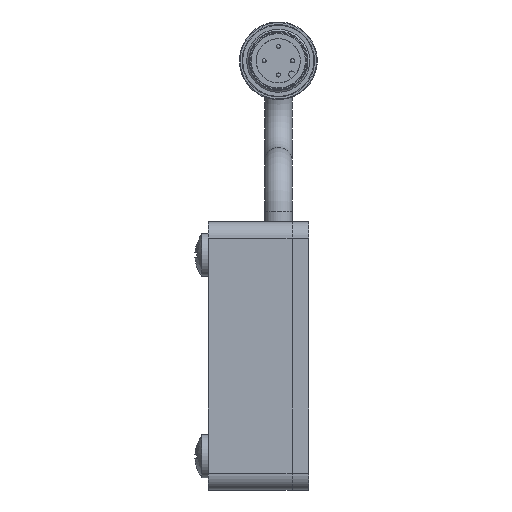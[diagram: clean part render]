
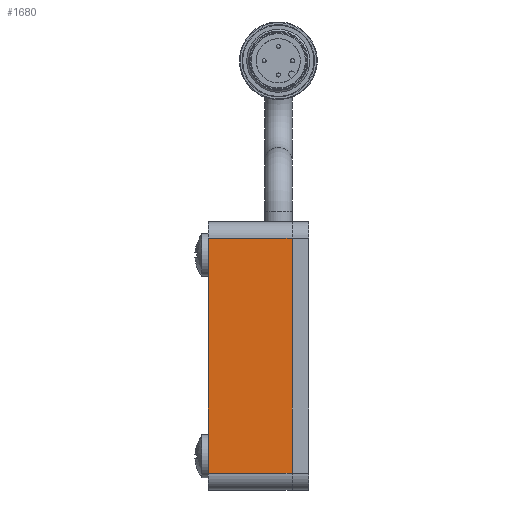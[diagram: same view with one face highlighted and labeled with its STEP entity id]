
A CAD part, left-side view. The second image highlights one B-rep face of the part: STEP entity #1680.
In plain terms, the highlighted planar face has unit normal (-1, 0, 0).
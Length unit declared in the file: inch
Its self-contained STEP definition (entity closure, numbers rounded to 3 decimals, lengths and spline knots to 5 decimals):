
#269 = VERTEX_POINT ( 'NONE', #8108 ) ;
#1356 = DIRECTION ( 'NONE',  ( 0., 0., 1. ) ) ;
#1680 = ADVANCED_FACE ( 'NONE', ( #5026 ), #9696, .F. ) ;
#2033 = DIRECTION ( 'NONE',  ( 0., 0., -1. ) ) ;
#2056 = VERTEX_POINT ( 'NONE', #3302 ) ;
#2324 = LINE ( 'NONE', #9928, #9515 ) ;
#2597 = VERTEX_POINT ( 'NONE', #7595 ) ;
#3302 = CARTESIAN_POINT ( 'NONE',  ( -2.5, -0.3125, 0.875 ) ) ;
#3992 = VECTOR ( 'NONE', #5031, 39.37008 ) ;
#4002 = ORIENTED_EDGE ( 'NONE', *, *, #11895, .F. ) ;
#4847 = EDGE_CURVE ( 'NONE', #2597, #269, #9281, .T. ) ;
#4908 = EDGE_CURVE ( 'NONE', #2056, #7441, #5435, .T. ) ;
#5026 = FACE_OUTER_BOUND ( 'NONE', #11544, .T. ) ;
#5031 = DIRECTION ( 'NONE',  ( 0., 0., 1. ) ) ;
#5435 = LINE ( 'NONE', #7350, #11384 ) ;
#5775 = DIRECTION ( 'NONE',  ( 1., 0., 0. ) ) ;
#7289 = DIRECTION ( 'NONE',  ( 0., 1., 0. ) ) ;
#7350 = CARTESIAN_POINT ( 'NONE',  ( -2.5, 0.3125, 0.875 ) ) ;
#7441 = VERTEX_POINT ( 'NONE', #11960 ) ;
#7595 = CARTESIAN_POINT ( 'NONE',  ( -2.5, 0.3125, -0.875 ) ) ;
#8108 = CARTESIAN_POINT ( 'NONE',  ( -2.5, -0.3125, -0.875 ) ) ;
#8767 = CARTESIAN_POINT ( 'NONE',  ( -2.5, 0.3125, 1. ) ) ;
#9224 = DIRECTION ( 'NONE',  ( 0., -1., 0. ) ) ;
#9281 = LINE ( 'NONE', #10977, #12199 ) ;
#9321 = ORIENTED_EDGE ( 'NONE', *, *, #9775, .T. ) ;
#9515 = VECTOR ( 'NONE', #1356, 39.37008 ) ;
#9696 = PLANE ( 'NONE',  #10611 ) ;
#9775 = EDGE_CURVE ( 'NONE', #269, #2056, #2324, .T. ) ;
#9928 = CARTESIAN_POINT ( 'NONE',  ( -2.5, -0.3125, 1. ) ) ;
#9946 = CARTESIAN_POINT ( 'NONE',  ( -2.5, 0.3125, 1. ) ) ;
#10036 = ORIENTED_EDGE ( 'NONE', *, *, #4908, .T. ) ;
#10611 = AXIS2_PLACEMENT_3D ( 'NONE', #8767, #5775, #2033 ) ;
#10977 = CARTESIAN_POINT ( 'NONE',  ( -2.5, 0.3125, -0.875 ) ) ;
#11384 = VECTOR ( 'NONE', #7289, 39.37008 ) ;
#11544 = EDGE_LOOP ( 'NONE', ( #4002, #12050, #9321, #10036 ) ) ;
#11835 = LINE ( 'NONE', #9946, #3992 ) ;
#11895 = EDGE_CURVE ( 'NONE', #2597, #7441, #11835, .T. ) ;
#11960 = CARTESIAN_POINT ( 'NONE',  ( -2.5, 0.3125, 0.875 ) ) ;
#12050 = ORIENTED_EDGE ( 'NONE', *, *, #4847, .T. ) ;
#12199 = VECTOR ( 'NONE', #9224, 39.37008 ) ;
